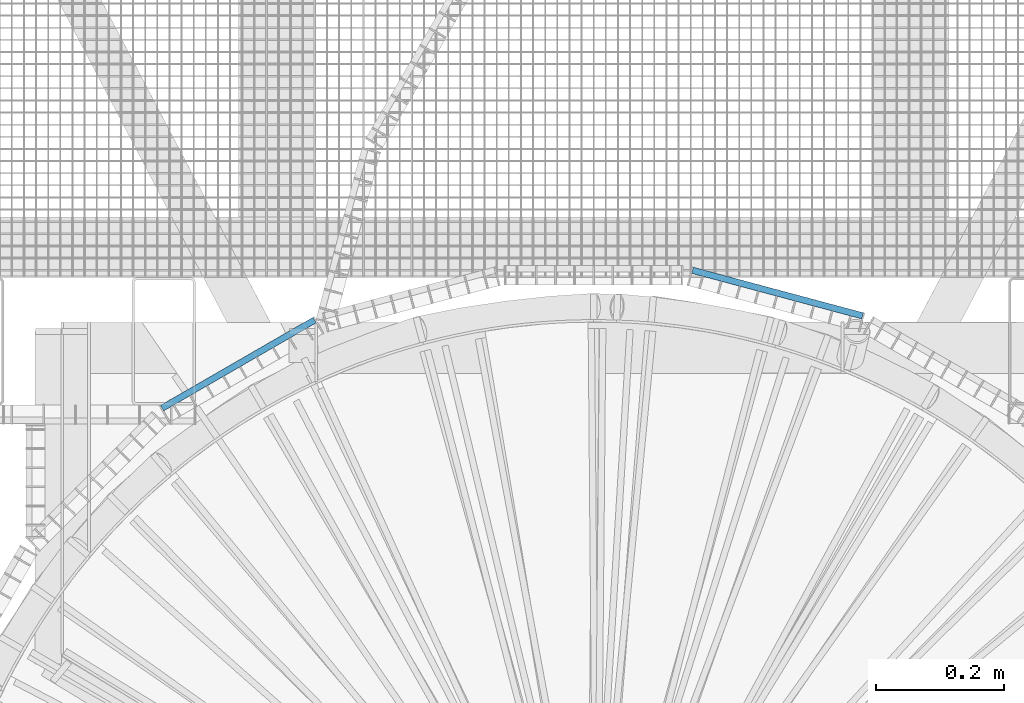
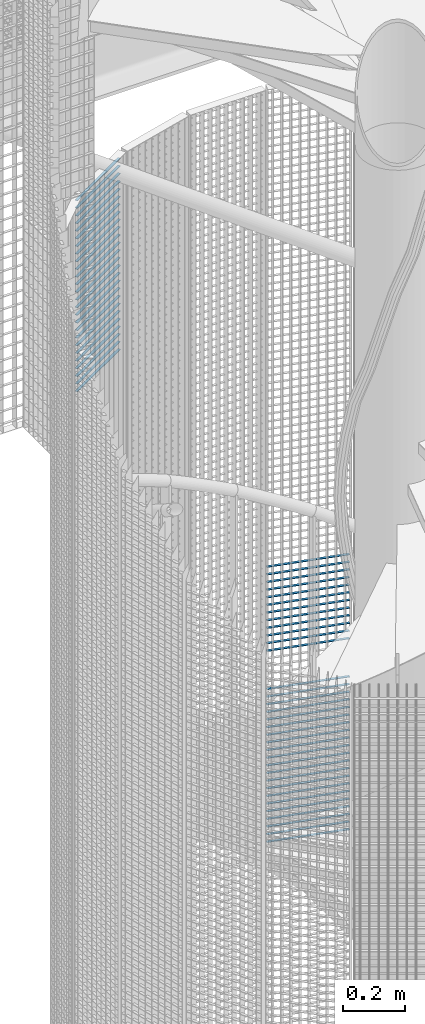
# One storey, part 321 of 1183: 59 beams, 2 elements without a shape of their own.
"""IFC2X3 building model written with IfcOpenShell, lengths in millimetres."""

import ifcopenshell
import ifcopenshell.guid

model = None  # the IFC model being written
_history = None  # IfcOwnerHistory: only IFC2X3 demands one
_inside = {}  # id of a spatial element -> (the spatial element, [elements in it])
_under = {}  # id of a project, library or spatial element -> (it, [spatial elements below it])
_declared = {}  # id of a project -> (the project, [libraries it declares])
_typed = {}  # id of a type object -> (the type object, [elements of that type])
_made_of = {}  # id of a material, layer set ... -> (it, [elements and type objects made of it])


def new_model(schema):
    """Start an empty IFC model of exactly this schema.

    Asked for "IFC4X3", IfcOpenShell would pick the latest addendum, in which some entities
    have other attributes; the version numbers below select the first issue.
    IFC2X3 requires an IfcOwnerHistory on every rooted entity: one is made here for all.
    """
    global model, _history
    if schema == "IFC4X3":
        model = ifcopenshell.file(schema_version=(4, 3, 0, 0))
    else:
        model = ifcopenshell.file(schema=schema)
    _inside.clear()
    _under.clear()
    _declared.clear()
    _typed.clear()
    _made_of.clear()
    _history = None
    if model.schema == "IFC2X3":
        org = make("IfcOrganization", Name="unknown")
        user = make(
            "IfcPersonAndOrganization",
            ThePerson=make("IfcPerson", FamilyName="unknown"),
            TheOrganization=org,
        )
        app = make(
            "IfcApplication",
            ApplicationDeveloper=org,
            Version="unknown",
            ApplicationFullName="unknown",
            ApplicationIdentifier="unknown",
        )
        _history = make(
            "IfcOwnerHistory",
            OwningUser=user,
            OwningApplication=app,
            ChangeAction="ADDED",
            CreationDate=0,
        )
    return model


def make(cls, **values):
    """One entity of the class cls with the attributes given. An attribute that is None is left unset."""
    return model.create_entity(
        cls, **{name: value for name, value in values.items() if value is not None}
    )


def rooted(cls, **values):
    """An entity with a GlobalId (a new one), such as an element, a storey or a relation."""
    return make(cls, GlobalId=ifcopenshell.guid.new(), OwnerHistory=_history, **values)


def si_unit(unit_type, name, prefix=None):
    """IfcSIUnit, for example si_unit("LENGTHUNIT", "METRE", prefix="MILLI")."""
    return make("IfcSIUnit", UnitType=unit_type, Prefix=prefix, Name=name)


def assignment(units):
    """IfcUnitAssignment: the units of a project."""
    return None if units is None else make("IfcUnitAssignment", Units=units)


def point(xyz):
    """IfcCartesianPoint."""
    return None if xyz is None else make("IfcCartesianPoint", Coordinates=xyz)


def direction(xyz):
    """IfcDirection."""
    return None if xyz is None else make("IfcDirection", DirectionRatios=xyz)


def frame(location, z_axis=None, x_axis=None):
    """IfcAxis2Placement3D, a coordinate frame: its origin and axes. An axis left out is left unset."""
    return make(
        "IfcAxis2Placement3D",
        Location=point(location),
        Axis=direction(z_axis),
        RefDirection=direction(x_axis),
    )


def frame_2d(location, x_axis=None):
    """IfcAxis2Placement2D, a coordinate frame in the plane: its origin and x axis."""
    return make(
        "IfcAxis2Placement2D", Location=point(location), RefDirection=direction(x_axis)
    )


def origin_with_axes():
    """The frame at (0, 0, 0) with the z axis (0, 0, 1) and the x axis (1, 0, 0) written out."""
    return frame((0.0, 0.0, 0.0), z_axis=(0.0, 0.0, 1.0), x_axis=(1.0, 0.0, 0.0))


def origin_2d_with_axis():
    """The frame at (0, 0) in the plane with the x axis (1, 0) written out."""
    return frame_2d((0.0, 0.0), x_axis=(1.0, 0.0))


def place(relative_to, where):
    """IfcLocalPlacement: puts the frame where relative to a parent placement (None: the world)."""
    return make(
        "IfcLocalPlacement", PlacementRelTo=relative_to, RelativePlacement=where
    )


def context(
    kind, dimensions, precision=None, world=None, true_north=None, identifier=None
):
    """IfcGeometricRepresentationContext, for example the 3D "Model" context."""
    return make(
        "IfcGeometricRepresentationContext",
        ContextIdentifier=identifier,
        ContextType=kind,
        CoordinateSpaceDimension=dimensions,
        Precision=precision,
        WorldCoordinateSystem=world,
        TrueNorth=true_north,
    )


def subcontext(parent, identifier, kind, view, scale=None):
    """IfcGeometricRepresentationSubContext, for example "Body" below "Model"."""
    return make(
        "IfcGeometricRepresentationSubContext",
        ContextIdentifier=identifier,
        ContextType=kind,
        ParentContext=parent,
        TargetScale=scale,
        TargetView=view,
    )


def project(units=None, contexts=None):
    """IfcProject with its units and contexts."""
    return rooted(
        "IfcProject",
        Name="project",
        RepresentationContexts=contexts,
        UnitsInContext=assignment(units),
    )


def spatial(cls, under=None, at=None, **own):
    """A site, building, storey or space (cls), placed at a placement, below another one or the project."""
    s = rooted(cls, ObjectPlacement=at, **own)
    if under is not None:
        _under.setdefault(under.id(), (under, []))[1].append(s)
    return s


def profile(cls, at=None, kind="AREA", **sizes):
    """A parametric profile (cls). Its sizes go by their IFC names, for example OverallWidth=200.0."""
    return make(cls, ProfileType=kind, Position=at, **sizes)


def rectangle(**sizes):
    """IfcRectangleProfileDef."""
    return profile("IfcRectangleProfileDef", **sizes)


def extrude(swept, where, along, depth):
    """IfcExtrudedAreaSolid: the profile swept, set in the frame where, extruded along a direction by depth."""
    return make(
        "IfcExtrudedAreaSolid",
        SweptArea=swept,
        Position=where,
        ExtrudedDirection=direction(along),
        Depth=depth,
    )


def shape(context_of_items, identifier, shape_type, items):
    """IfcShapeRepresentation: the items that make up one representation, for example the "Body"."""
    return make(
        "IfcShapeRepresentation",
        ContextOfItems=context_of_items,
        RepresentationIdentifier=identifier,
        RepresentationType=shape_type,
        Items=items,
    )


def material(Name=None, Category=None):
    """IfcMaterial."""
    return make("IfcMaterial", Name=Name, Category=Category)


def made_of(thing, what):
    """Note that an element or type object is made of a material, layer set ...; save() writes the relation."""
    if what is not None:
        _made_of.setdefault(what.id(), (what, []))[1].append(thing)
    return thing


def type_object(cls, material=None, **own):
    """A type object (cls), such as IfcWallType, which elements share."""
    return made_of(rooted(cls, **own), material)


def element(
    cls,
    number,
    at=None,
    inside=None,
    cuts=None,
    type_object=None,
    material=None,
    context=None,
    identifier="Body",
    shape_type=None,
    held_by="IfcProductDefinitionShape",
    body=None,
    shapes=None,
    **own,
):
    """One element of the class cls, such as IfcWall. Its Tag is "e" and its number.

    at: its placement. inside: the storey or other place that contains it. cuts: it is an
    opening in that element (IfcRelVoidsElement). A single representation is given by context,
    identifier, shape_type and body (its items); several are given by shapes. held_by: the class
    of the entity that holds the representations. save() writes the other relations.
    """
    e = rooted(cls, Tag="e%d" % number, ObjectPlacement=at, **own)
    if body is not None:
        shapes = [shape(context, identifier, shape_type, body)]
    if shapes is not None:
        e.Representation = make(held_by, Representations=shapes)
    if inside is not None:
        _inside.setdefault(inside.id(), (inside, []))[1].append(e)
    if cuts is not None:
        rooted(
            "IfcRelVoidsElement", RelatingBuildingElement=cuts, RelatedOpeningElement=e
        )
    if type_object is not None:
        _typed.setdefault(type_object.id(), (type_object, []))[1].append(e)
    return made_of(e, material)


def aggregate(whole, parts):
    """IfcRelAggregates: a whole, such as a stair, and the parts it consists of."""
    return rooted("IfcRelAggregates", RelatingObject=whole, RelatedObjects=parts)


def save(model, path):
    """Write the relations noted so far, then the file.

    IfcRelAggregates (storeys below a building ...), IfcRelContainedInSpatialStructure (elements
    in a storey), IfcRelDefinesByType, IfcRelAssociatesMaterial and IfcRelDeclares: one each for
    every whole, place, type object, material and project.
    """
    for whole, parts in _under.values():
        aggregate(whole, parts)
    for where, things in _inside.values():
        rooted(
            "IfcRelContainedInSpatialStructure",
            RelatedElements=things,
            RelatingStructure=where,
        )
    for kind, things in _typed.values():
        rooted("IfcRelDefinesByType", RelatedObjects=things, RelatingType=kind)
    for what, things in _made_of.values():
        rooted("IfcRelAssociatesMaterial", RelatedObjects=things, RelatingMaterial=what)
    for by, libraries in _declared.values():
        rooted("IfcRelDeclares", RelatingContext=by, RelatedDefinitions=libraries)
    model.write(path)


model = new_model("IFC2X3")

# Units and contexts
model_context = context("Model", 3, precision=1e-05, world=origin_with_axes())
body_context = subcontext(model_context, "Body", "Model", "MODEL_VIEW")
ifc_project = project(units=[si_unit("LENGTHUNIT", "METRE", prefix="MILLI"), si_unit("AREAUNIT", "SQUARE_METRE"), si_unit("VOLUMEUNIT", "CUBIC_METRE"), si_unit("MASSUNIT", "GRAM", prefix="KILO"), si_unit("TIMEUNIT", "SECOND"), si_unit("PLANEANGLEUNIT", "RADIAN"), si_unit("SOLIDANGLEUNIT", "STERADIAN"), si_unit("THERMODYNAMICTEMPERATUREUNIT", "DEGREE_CELSIUS"), si_unit("LUMINOUSINTENSITYUNIT", "LUMEN")], contexts=[model_context])

# Site, building, storey
site_placement = place(None, origin_with_axes())
site = spatial("IfcSite", under=ifc_project, at=site_placement, Name="Undefined", CompositionType="ELEMENT")
building_placement = place(site_placement, origin_with_axes())
building = spatial("IfcBuilding", under=site, at=building_placement, Name="Undefined", CompositionType="ELEMENT")
storey_placement = place(building_placement, origin_with_axes())
storey = spatial("IfcBuildingStorey", under=building, at=storey_placement, Name="Undefined", CompositionType="ELEMENT", Elevation=0.0)

# Assembly, beams
assembly_1_placement = place(storey_placement, origin_with_axes())
assembly_1 = element("IfcElementAssembly", 1, at=assembly_1_placement, inside=storey, Name="BORDURE", AssemblyPlace="NOTDEFINED", PredefinedType="NOTDEFINED")
ifc_material = material(Name="STEEL/S235JR")
beam_type = type_object("IfcBeamType", Name="PL2*10", PredefinedType="NOTDEFINED")
beam_1_placement = place(assembly_1_placement, frame((421.483733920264, 1039.82309522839, 3630.0), z_axis=(0.258819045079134, 0.965925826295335, 0.0), x_axis=(-0.965925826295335, 0.258819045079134, 0.0)))
beam_1 = element("IfcBeam", 2, at=beam_1_placement, type_object=beam_type, material=ifc_material, Name="ENTRETOISE", context=body_context, shape_type="SweptSolid", body=[
    extrude(rectangle(XDim=2.0, YDim=10.0, at=origin_2d_with_axis()), frame((275.999999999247, 9.09494701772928e-13, 1.53210777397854e-14), z_axis=(-1.0, 0.0, 0.0), x_axis=(0.0, -1.0, 0.0)), (0.0, 0.0, 1.0), 276.0),
])
beam_2_placement = place(assembly_1_placement, frame((421.483733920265, 1039.82309522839, 3780.0), z_axis=(0.258819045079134, 0.965925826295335, 0.0), x_axis=(-0.965925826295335, 0.258819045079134, 0.0)))
beam_2 = element("IfcBeam", 3, at=beam_2_placement, type_object=beam_type, material=ifc_material, Name="ENTRETOISE", context=body_context, shape_type="SweptSolid", body=[
    extrude(rectangle(XDim=2.0, YDim=10.0, at=origin_2d_with_axis()), frame((275.999999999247, 9.09494701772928e-13, 1.53210777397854e-14), z_axis=(-1.0, 0.0, 0.0), x_axis=(0.0, -1.0, 0.0)), (0.0, 0.0, 1.0), 276.0),
])
beam_3_placement = place(assembly_1_placement, frame((421.483733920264, 1039.82309522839, 3600.0), z_axis=(0.258819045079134, 0.965925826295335, 0.0), x_axis=(-0.965925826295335, 0.258819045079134, 0.0)))
beam_3 = element("IfcBeam", 4, at=beam_3_placement, type_object=beam_type, material=ifc_material, Name="ENTRETOISE", context=body_context, shape_type="SweptSolid", body=[
    extrude(rectangle(XDim=2.0, YDim=10.0, at=origin_2d_with_axis()), frame((275.999999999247, 9.09494701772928e-13, 1.53210777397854e-14), z_axis=(-1.0, 0.0, 0.0), x_axis=(0.0, -1.0, 0.0)), (0.0, 0.0, 1.0), 276.0),
])
beam_4_placement = place(assembly_1_placement, frame((421.483733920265, 1039.82309522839, 3810.0), z_axis=(0.258819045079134, 0.965925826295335, 0.0), x_axis=(-0.965925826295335, 0.258819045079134, 0.0)))
beam_4 = element("IfcBeam", 5, at=beam_4_placement, type_object=beam_type, material=ifc_material, Name="ENTRETOISE", context=body_context, shape_type="SweptSolid", body=[
    extrude(rectangle(XDim=2.0, YDim=10.0, at=origin_2d_with_axis()), frame((275.999999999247, 9.09494701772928e-13, 1.53210777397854e-14), z_axis=(-1.0, 0.0, 0.0), x_axis=(0.0, -1.0, 0.0)), (0.0, 0.0, 1.0), 276.0),
])
beam_5_placement = place(assembly_1_placement, frame((421.483733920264, 1039.82309522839, 3570.0), z_axis=(0.258819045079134, 0.965925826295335, 0.0), x_axis=(-0.965925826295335, 0.258819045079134, 0.0)))
beam_5 = element("IfcBeam", 6, at=beam_5_placement, type_object=beam_type, material=ifc_material, Name="ENTRETOISE", context=body_context, shape_type="SweptSolid", body=[
    extrude(rectangle(XDim=2.0, YDim=10.0, at=origin_2d_with_axis()), frame((275.999999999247, 9.09494701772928e-13, 1.53210777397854e-14), z_axis=(-1.0, 0.0, 0.0), x_axis=(0.0, -1.0, 0.0)), (0.0, 0.0, 1.0), 276.0),
])
beam_6_placement = place(assembly_1_placement, frame((421.483733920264, 1039.82309522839, 3540.0), z_axis=(0.258819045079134, 0.965925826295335, 0.0), x_axis=(-0.965925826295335, 0.258819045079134, 0.0)))
beam_6 = element("IfcBeam", 7, at=beam_6_placement, type_object=beam_type, material=ifc_material, Name="ENTRETOISE", context=body_context, shape_type="SweptSolid", body=[
    extrude(rectangle(XDim=2.0, YDim=10.0, at=origin_2d_with_axis()), frame((275.999999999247, 9.09494701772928e-13, 1.53210777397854e-14), z_axis=(-1.0, 0.0, 0.0), x_axis=(0.0, -1.0, 0.0)), (0.0, 0.0, 1.0), 276.0),
])
beam_7_placement = place(assembly_1_placement, frame((421.483733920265, 1039.82309522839, 3840.0), z_axis=(0.258819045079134, 0.965925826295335, 0.0), x_axis=(-0.965925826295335, 0.258819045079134, 0.0)))
beam_7 = element("IfcBeam", 8, at=beam_7_placement, type_object=beam_type, material=ifc_material, Name="ENTRETOISE", context=body_context, shape_type="SweptSolid", body=[
    extrude(rectangle(XDim=2.0, YDim=10.0, at=origin_2d_with_axis()), frame((275.999999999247, 9.09494701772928e-13, 1.53210777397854e-14), z_axis=(-1.0, 0.0, 0.0), x_axis=(0.0, -1.0, 0.0)), (0.0, 0.0, 1.0), 276.0),
])
beam_8_placement = place(assembly_1_placement, frame((421.483733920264, 1039.82309522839, 3510.0), z_axis=(0.258819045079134, 0.965925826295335, 0.0), x_axis=(-0.965925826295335, 0.258819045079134, 0.0)))
beam_8 = element("IfcBeam", 9, at=beam_8_placement, type_object=beam_type, material=ifc_material, Name="ENTRETOISE", context=body_context, shape_type="SweptSolid", body=[
    extrude(rectangle(XDim=2.0, YDim=10.0, at=origin_2d_with_axis()), frame((275.999999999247, 9.09494701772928e-13, 1.53210777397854e-14), z_axis=(-1.0, 0.0, 0.0), x_axis=(0.0, -1.0, 0.0)), (0.0, 0.0, 1.0), 276.0),
])
beam_9_placement = place(assembly_1_placement, frame((421.483733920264, 1039.82309522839, 3480.0), z_axis=(0.258819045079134, 0.965925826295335, 0.0), x_axis=(-0.965925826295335, 0.258819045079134, 0.0)))
beam_9 = element("IfcBeam", 10, at=beam_9_placement, type_object=beam_type, material=ifc_material, Name="ENTRETOISE", context=body_context, shape_type="SweptSolid", body=[
    extrude(rectangle(XDim=2.0, YDim=10.0, at=origin_2d_with_axis()), frame((275.999999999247, 9.09494701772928e-13, 1.53210777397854e-14), z_axis=(-1.0, 0.0, 0.0), x_axis=(0.0, -1.0, 0.0)), (0.0, 0.0, 1.0), 276.0),
])
beam_10_placement = place(assembly_1_placement, frame((421.483733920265, 1039.82309522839, 3870.0), z_axis=(0.258819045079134, 0.965925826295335, 0.0), x_axis=(-0.965925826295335, 0.258819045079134, 0.0)))
beam_10 = element("IfcBeam", 11, at=beam_10_placement, type_object=beam_type, material=ifc_material, Name="ENTRETOISE", context=body_context, shape_type="SweptSolid", body=[
    extrude(rectangle(XDim=2.0, YDim=10.0, at=origin_2d_with_axis()), frame((275.999999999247, 9.09494701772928e-13, 1.53210777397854e-14), z_axis=(-1.0, 0.0, 0.0), x_axis=(0.0, -1.0, 0.0)), (0.0, 0.0, 1.0), 276.0),
])
beam_11_placement = place(assembly_1_placement, frame((421.483733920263, 1039.82309522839, 3450.0), z_axis=(0.258819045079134, 0.965925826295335, 0.0), x_axis=(-0.965925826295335, 0.258819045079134, 0.0)))
beam_11 = element("IfcBeam", 12, at=beam_11_placement, type_object=beam_type, material=ifc_material, Name="ENTRETOISE", context=body_context, shape_type="SweptSolid", body=[
    extrude(rectangle(XDim=2.0, YDim=10.0, at=origin_2d_with_axis()), frame((275.999999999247, 9.09494701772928e-13, 1.53210777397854e-14), z_axis=(-1.0, 0.0, 0.0), x_axis=(0.0, -1.0, 0.0)), (0.0, 0.0, 1.0), 276.0),
])
beam_12_placement = place(assembly_1_placement, frame((421.483733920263, 1039.82309522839, 3420.0), z_axis=(0.258819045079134, 0.965925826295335, 0.0), x_axis=(-0.965925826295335, 0.258819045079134, 0.0)))
beam_12 = element("IfcBeam", 13, at=beam_12_placement, type_object=beam_type, material=ifc_material, Name="ENTRETOISE", context=body_context, shape_type="SweptSolid", body=[
    extrude(rectangle(XDim=2.0, YDim=10.0, at=origin_2d_with_axis()), frame((275.999999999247, 9.09494701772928e-13, 1.53210777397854e-14), z_axis=(-1.0, 0.0, 0.0), x_axis=(0.0, -1.0, 0.0)), (0.0, 0.0, 1.0), 276.0),
])
beam_13_placement = place(assembly_1_placement, frame((421.483733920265, 1039.82309522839, 3900.0), z_axis=(0.258819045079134, 0.965925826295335, 0.0), x_axis=(-0.965925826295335, 0.258819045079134, 0.0)))
beam_13 = element("IfcBeam", 14, at=beam_13_placement, type_object=beam_type, material=ifc_material, Name="ENTRETOISE", context=body_context, shape_type="SweptSolid", body=[
    extrude(rectangle(XDim=2.0, YDim=10.0, at=origin_2d_with_axis()), frame((275.999999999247, 9.09494701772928e-13, 1.53210777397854e-14), z_axis=(-1.0, 0.0, 0.0), x_axis=(0.0, -1.0, 0.0)), (0.0, 0.0, 1.0), 276.0),
])
beam_14_placement = place(assembly_1_placement, frame((421.483733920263, 1039.82309522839, 3390.0), z_axis=(0.258819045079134, 0.965925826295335, 0.0), x_axis=(-0.965925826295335, 0.258819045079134, 0.0)))
beam_14 = element("IfcBeam", 15, at=beam_14_placement, type_object=beam_type, material=ifc_material, Name="ENTRETOISE", context=body_context, shape_type="SweptSolid", body=[
    extrude(rectangle(XDim=2.0, YDim=10.0, at=origin_2d_with_axis()), frame((275.999999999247, 9.09494701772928e-13, 1.53210777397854e-14), z_axis=(-1.0, 0.0, 0.0), x_axis=(0.0, -1.0, 0.0)), (0.0, 0.0, 1.0), 276.0),
])
beam_15_placement = place(assembly_1_placement, frame((421.483733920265, 1039.82309522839, 3930.0), z_axis=(0.258819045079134, 0.965925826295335, 0.0), x_axis=(-0.965925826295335, 0.258819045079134, 0.0)))
beam_15 = element("IfcBeam", 16, at=beam_15_placement, type_object=beam_type, material=ifc_material, Name="ENTRETOISE", context=body_context, shape_type="SweptSolid", body=[
    extrude(rectangle(XDim=2.0, YDim=10.0, at=origin_2d_with_axis()), frame((275.999999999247, 9.09494701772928e-13, 1.53210777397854e-14), z_axis=(-1.0, 0.0, 0.0), x_axis=(0.0, -1.0, 0.0)), (0.0, 0.0, 1.0), 276.0),
])
beam_16_placement = place(assembly_1_placement, frame((421.483733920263, 1039.82309522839, 3360.0), z_axis=(0.258819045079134, 0.965925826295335, 0.0), x_axis=(-0.965925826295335, 0.258819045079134, 0.0)))
beam_16 = element("IfcBeam", 17, at=beam_16_placement, type_object=beam_type, material=ifc_material, Name="ENTRETOISE", context=body_context, shape_type="SweptSolid", body=[
    extrude(rectangle(XDim=2.0, YDim=10.0, at=origin_2d_with_axis()), frame((275.999999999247, 9.09494701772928e-13, 1.53210777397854e-14), z_axis=(-1.0, 0.0, 0.0), x_axis=(0.0, -1.0, 0.0)), (0.0, 0.0, 1.0), 276.0),
])
beam_17_placement = place(assembly_1_placement, frame((421.483733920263, 1039.82309522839, 3330.0), z_axis=(0.258819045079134, 0.965925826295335, 0.0), x_axis=(-0.965925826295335, 0.258819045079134, 0.0)))
beam_17 = element("IfcBeam", 18, at=beam_17_placement, type_object=beam_type, material=ifc_material, Name="ENTRETOISE", context=body_context, shape_type="SweptSolid", body=[
    extrude(rectangle(XDim=2.0, YDim=10.0, at=origin_2d_with_axis()), frame((275.999999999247, 9.09494701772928e-13, 1.53210777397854e-14), z_axis=(-1.0, 0.0, 0.0), x_axis=(0.0, -1.0, 0.0)), (0.0, 0.0, 1.0), 276.0),
])
beam_18_placement = place(assembly_1_placement, frame((421.483733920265, 1039.82309522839, 3960.0), z_axis=(0.258819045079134, 0.965925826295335, 0.0), x_axis=(-0.965925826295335, 0.258819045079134, 0.0)))
beam_18 = element("IfcBeam", 19, at=beam_18_placement, type_object=beam_type, material=ifc_material, Name="ENTRETOISE", context=body_context, shape_type="SweptSolid", body=[
    extrude(rectangle(XDim=2.0, YDim=10.0, at=origin_2d_with_axis()), frame((275.999999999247, 9.09494701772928e-13, 1.53210777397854e-14), z_axis=(-1.0, 0.0, 0.0), x_axis=(0.0, -1.0, 0.0)), (0.0, 0.0, 1.0), 276.0),
])
beam_19_placement = place(assembly_1_placement, frame((421.483733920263, 1039.82309522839, 3300.0), z_axis=(0.258819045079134, 0.965925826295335, 0.0), x_axis=(-0.965925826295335, 0.258819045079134, 0.0)))
beam_19 = element("IfcBeam", 20, at=beam_19_placement, type_object=beam_type, material=ifc_material, Name="ENTRETOISE", context=body_context, shape_type="SweptSolid", body=[
    extrude(rectangle(XDim=2.0, YDim=10.0, at=origin_2d_with_axis()), frame((275.999999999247, 9.09494701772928e-13, 1.53210777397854e-14), z_axis=(-1.0, 0.0, 0.0), x_axis=(0.0, -1.0, 0.0)), (0.0, 0.0, 1.0), 276.0),
])
beam_20_placement = place(assembly_1_placement, frame((421.483733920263, 1039.82309522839, 3270.0), z_axis=(0.258819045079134, 0.965925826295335, 0.0), x_axis=(-0.965925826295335, 0.258819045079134, 0.0)))
beam_20 = element("IfcBeam", 21, at=beam_20_placement, type_object=beam_type, material=ifc_material, Name="ENTRETOISE", context=body_context, shape_type="SweptSolid", body=[
    extrude(rectangle(XDim=2.0, YDim=10.0, at=origin_2d_with_axis()), frame((275.999999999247, 9.09494701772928e-13, 1.53210777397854e-14), z_axis=(-1.0, 0.0, 0.0), x_axis=(0.0, -1.0, 0.0)), (0.0, 0.0, 1.0), 276.0),
])
beam_21_placement = place(assembly_1_placement, frame((421.483733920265, 1039.82309522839, 3990.0), z_axis=(0.258819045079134, 0.965925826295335, 0.0), x_axis=(-0.965925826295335, 0.258819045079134, 0.0)))
beam_21 = element("IfcBeam", 22, at=beam_21_placement, type_object=beam_type, material=ifc_material, Name="ENTRETOISE", context=body_context, shape_type="SweptSolid", body=[
    extrude(rectangle(XDim=2.0, YDim=10.0, at=origin_2d_with_axis()), frame((275.999999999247, 9.09494701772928e-13, 1.53210777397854e-14), z_axis=(-1.0, 0.0, 0.0), x_axis=(0.0, -1.0, 0.0)), (0.0, 0.0, 1.0), 276.0),
])
beam_22_placement = place(assembly_1_placement, frame((421.483733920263, 1039.82309522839, 3240.0), z_axis=(0.258819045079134, 0.965925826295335, 0.0), x_axis=(-0.965925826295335, 0.258819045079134, 0.0)))
beam_22 = element("IfcBeam", 23, at=beam_22_placement, type_object=beam_type, material=ifc_material, Name="ENTRETOISE", context=body_context, shape_type="SweptSolid", body=[
    extrude(rectangle(XDim=2.0, YDim=10.0, at=origin_2d_with_axis()), frame((275.999999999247, 9.09494701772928e-13, 1.53210777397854e-14), z_axis=(-1.0, 0.0, 0.0), x_axis=(0.0, -1.0, 0.0)), (0.0, 0.0, 1.0), 276.0),
])
beam_23_placement = place(assembly_1_placement, frame((421.483733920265, 1039.82309522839, 4020.0), z_axis=(0.258819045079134, 0.965925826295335, 0.0), x_axis=(-0.965925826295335, 0.258819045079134, 0.0)))
beam_23 = element("IfcBeam", 24, at=beam_23_placement, type_object=beam_type, material=ifc_material, Name="ENTRETOISE", context=body_context, shape_type="SweptSolid", body=[
    extrude(rectangle(XDim=2.0, YDim=10.0, at=origin_2d_with_axis()), frame((275.999999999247, 9.09494701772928e-13, 1.53210777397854e-14), z_axis=(-1.0, 0.0, 0.0), x_axis=(0.0, -1.0, 0.0)), (0.0, 0.0, 1.0), 276.0),
])
beam_24_placement = place(assembly_1_placement, frame((421.483733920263, 1039.82309522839, 3210.0), z_axis=(0.258819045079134, 0.965925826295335, 0.0), x_axis=(-0.965925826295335, 0.258819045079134, 0.0)))
beam_24 = element("IfcBeam", 25, at=beam_24_placement, type_object=beam_type, material=ifc_material, Name="ENTRETOISE", context=body_context, shape_type="SweptSolid", body=[
    extrude(rectangle(XDim=2.0, YDim=10.0, at=origin_2d_with_axis()), frame((275.999999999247, 9.09494701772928e-13, 1.53210777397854e-14), z_axis=(-1.0, 0.0, 0.0), x_axis=(0.0, -1.0, 0.0)), (0.0, 0.0, 1.0), 276.0),
])
beam_25_placement = place(assembly_1_placement, frame((421.483733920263, 1039.82309522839, 3180.0), z_axis=(0.258819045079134, 0.965925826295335, 0.0), x_axis=(-0.965925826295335, 0.258819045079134, 0.0)))
beam_25 = element("IfcBeam", 26, at=beam_25_placement, type_object=beam_type, material=ifc_material, Name="ENTRETOISE", context=body_context, shape_type="SweptSolid", body=[
    extrude(rectangle(XDim=2.0, YDim=10.0, at=origin_2d_with_axis()), frame((275.999999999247, 9.09494701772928e-13, 1.53210777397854e-14), z_axis=(-1.0, 0.0, 0.0), x_axis=(0.0, -1.0, 0.0)), (0.0, 0.0, 1.0), 276.0),
])
beam_26_placement = place(assembly_1_placement, frame((421.483733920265, 1039.82309522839, 4050.0), z_axis=(0.258819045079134, 0.965925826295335, 0.0), x_axis=(-0.965925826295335, 0.258819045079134, 0.0)))
beam_26 = element("IfcBeam", 27, at=beam_26_placement, type_object=beam_type, material=ifc_material, Name="ENTRETOISE", context=body_context, shape_type="SweptSolid", body=[
    extrude(rectangle(XDim=2.0, YDim=10.0, at=origin_2d_with_axis()), frame((275.999999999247, 9.09494701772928e-13, 1.53210777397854e-14), z_axis=(-1.0, 0.0, 0.0), x_axis=(0.0, -1.0, 0.0)), (0.0, 0.0, 1.0), 276.0),
])
beam_27_placement = place(assembly_1_placement, frame((421.483733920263, 1039.82309522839, 3150.0), z_axis=(0.258819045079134, 0.965925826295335, 0.0), x_axis=(-0.965925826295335, 0.258819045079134, 0.0)))
beam_27 = element("IfcBeam", 28, at=beam_27_placement, type_object=beam_type, material=ifc_material, Name="ENTRETOISE", context=body_context, shape_type="SweptSolid", body=[
    extrude(rectangle(XDim=2.0, YDim=10.0, at=origin_2d_with_axis()), frame((275.999999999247, 9.09494701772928e-13, 1.53210777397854e-14), z_axis=(-1.0, 0.0, 0.0), x_axis=(0.0, -1.0, 0.0)), (0.0, 0.0, 1.0), 276.0),
])
beam_28_placement = place(assembly_1_placement, frame((421.483733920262, 1039.82309522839, 3120.0), z_axis=(0.258819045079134, 0.965925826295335, 0.0), x_axis=(-0.965925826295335, 0.258819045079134, 0.0)))
beam_28 = element("IfcBeam", 29, at=beam_28_placement, type_object=beam_type, material=ifc_material, Name="ENTRETOISE", context=body_context, shape_type="SweptSolid", body=[
    extrude(rectangle(XDim=2.0, YDim=10.0, at=origin_2d_with_axis()), frame((275.999999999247, 9.09494701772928e-13, 1.53210777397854e-14), z_axis=(-1.0, 0.0, 0.0), x_axis=(0.0, -1.0, 0.0)), (0.0, 0.0, 1.0), 276.0),
])
beam_29_placement = place(assembly_1_placement, frame((421.483733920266, 1039.82309522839, 4080.0), z_axis=(0.258819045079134, 0.965925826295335, 0.0), x_axis=(-0.965925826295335, 0.258819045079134, 0.0)))
beam_29 = element("IfcBeam", 30, at=beam_29_placement, type_object=beam_type, material=ifc_material, Name="ENTRETOISE", context=body_context, shape_type="SweptSolid", body=[
    extrude(rectangle(XDim=2.0, YDim=10.0, at=origin_2d_with_axis()), frame((275.999999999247, 9.09494701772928e-13, 1.53210777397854e-14), z_axis=(-1.0, 0.0, 0.0), x_axis=(0.0, -1.0, 0.0)), (0.0, 0.0, 1.0), 276.0),
])
beam_30_placement = place(assembly_1_placement, frame((421.483733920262, 1039.82309522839, 3090.0), z_axis=(0.258819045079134, 0.965925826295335, 0.0), x_axis=(-0.965925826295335, 0.258819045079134, 0.0)))
beam_30 = element("IfcBeam", 31, at=beam_30_placement, type_object=beam_type, material=ifc_material, Name="ENTRETOISE", context=body_context, shape_type="SweptSolid", body=[
    extrude(rectangle(XDim=2.0, YDim=10.0, at=origin_2d_with_axis()), frame((275.999999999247, 9.09494701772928e-13, 1.53210777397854e-14), z_axis=(-1.0, 0.0, 0.0), x_axis=(0.0, -1.0, 0.0)), (0.0, 0.0, 1.0), 276.0),
])
beam_31_placement = place(assembly_1_placement, frame((421.483733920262, 1039.82309522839, 3060.0), z_axis=(0.258819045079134, 0.965925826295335, 0.0), x_axis=(-0.965925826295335, 0.258819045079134, 0.0)))
beam_31 = element("IfcBeam", 32, at=beam_31_placement, type_object=beam_type, material=ifc_material, Name="ENTRETOISE", context=body_context, shape_type="SweptSolid", body=[
    extrude(rectangle(XDim=2.0, YDim=10.0, at=origin_2d_with_axis()), frame((275.999999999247, 9.09494701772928e-13, 1.53210777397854e-14), z_axis=(-1.0, 0.0, 0.0), x_axis=(0.0, -1.0, 0.0)), (0.0, 0.0, 1.0), 276.0),
])
beam_32_placement = place(assembly_1_placement, frame((421.483733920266, 1039.82309522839, 4110.0), z_axis=(0.258819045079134, 0.965925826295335, 0.0), x_axis=(-0.965925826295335, 0.258819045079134, 0.0)))
beam_32 = element("IfcBeam", 33, at=beam_32_placement, type_object=beam_type, material=ifc_material, Name="ENTRETOISE", context=body_context, shape_type="SweptSolid", body=[
    extrude(rectangle(XDim=2.0, YDim=10.0, at=origin_2d_with_axis()), frame((275.999999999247, 9.09494701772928e-13, 1.53210777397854e-14), z_axis=(-1.0, 0.0, 0.0), x_axis=(0.0, -1.0, 0.0)), (0.0, 0.0, 1.0), 276.0),
])
beam_33_placement = place(assembly_1_placement, frame((421.483733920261, 1039.82309522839, 3030.0), z_axis=(0.258819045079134, 0.965925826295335, 0.0), x_axis=(-0.965925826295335, 0.258819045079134, 0.0)))
beam_33 = element("IfcBeam", 34, at=beam_33_placement, type_object=beam_type, material=ifc_material, Name="ENTRETOISE", context=body_context, shape_type="SweptSolid", body=[
    extrude(rectangle(XDim=2.0, YDim=10.0, at=origin_2d_with_axis()), frame((275.999999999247, 9.09494701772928e-13, 1.53210777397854e-14), z_axis=(-1.0, 0.0, 0.0), x_axis=(0.0, -1.0, 0.0)), (0.0, 0.0, 1.0), 276.0),
])
aggregate(assembly_1, [beam_1, beam_2, beam_3, beam_4, beam_5, beam_6, beam_7, beam_8, beam_9, beam_10, beam_11, beam_12, beam_13, beam_14, beam_15, beam_16, beam_17, beam_18, beam_19, beam_20, beam_21, beam_22, beam_23, beam_24, beam_25, beam_26, beam_27, beam_28, beam_29, beam_30, beam_31, beam_32, beam_33])

assembly_2_placement = place(storey_placement, origin_with_axes())
assembly_2 = element("IfcElementAssembly", 35, at=assembly_2_placement, inside=storey, Name="BORDURE", AssemblyPlace="NOTDEFINED", PredefinedType="NOTDEFINED")
beam_34_placement = place(assembly_2_placement, frame((-437.231955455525, 1033.29996828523, 5970.0), z_axis=(-0.49999999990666, 0.866025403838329, 0.0), x_axis=(-0.866025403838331, -0.499999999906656, 0.0)))
beam_34 = element("IfcBeam", 36, at=beam_34_placement, type_object=beam_type, material=ifc_material, Name="ENTRETOISE", context=body_context, shape_type="SweptSolid", body=[
    extrude(rectangle(XDim=2.0, YDim=10.0, at=origin_2d_with_axis()), frame((275.999999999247, 9.09494701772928e-13, 1.53210777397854e-14), z_axis=(-1.0, 0.0, 0.0), x_axis=(0.0, -1.0, 0.0)), (0.0, 0.0, 1.0), 276.0),
])
beam_35_placement = place(assembly_2_placement, frame((-437.231955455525, 1033.29996828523, 5940.0), z_axis=(-0.49999999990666, 0.866025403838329, 0.0), x_axis=(-0.866025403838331, -0.499999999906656, 0.0)))
beam_35 = element("IfcBeam", 37, at=beam_35_placement, type_object=beam_type, material=ifc_material, Name="ENTRETOISE", context=body_context, shape_type="SweptSolid", body=[
    extrude(rectangle(XDim=2.0, YDim=10.0, at=origin_2d_with_axis()), frame((275.999999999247, 9.09494701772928e-13, 1.53210777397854e-14), z_axis=(-1.0, 0.0, 0.0), x_axis=(0.0, -1.0, 0.0)), (0.0, 0.0, 1.0), 276.0),
])
beam_36_placement = place(assembly_2_placement, frame((-437.231955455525, 1033.29996828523, 5910.0), z_axis=(-0.49999999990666, 0.866025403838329, 0.0), x_axis=(-0.866025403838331, -0.499999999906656, 0.0)))
beam_36 = element("IfcBeam", 38, at=beam_36_placement, type_object=beam_type, material=ifc_material, Name="ENTRETOISE", context=body_context, shape_type="SweptSolid", body=[
    extrude(rectangle(XDim=2.0, YDim=10.0, at=origin_2d_with_axis()), frame((275.999999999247, 9.09494701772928e-13, 1.53210777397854e-14), z_axis=(-1.0, 0.0, 0.0), x_axis=(0.0, -1.0, 0.0)), (0.0, 0.0, 1.0), 276.0),
])
beam_37_placement = place(assembly_2_placement, frame((-437.231955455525, 1033.29996828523, 5880.0), z_axis=(-0.49999999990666, 0.866025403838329, 0.0), x_axis=(-0.866025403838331, -0.499999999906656, 0.0)))
beam_37 = element("IfcBeam", 39, at=beam_37_placement, type_object=beam_type, material=ifc_material, Name="ENTRETOISE", context=body_context, shape_type="SweptSolid", body=[
    extrude(rectangle(XDim=2.0, YDim=10.0, at=origin_2d_with_axis()), frame((275.999999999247, 9.09494701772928e-13, 1.53210777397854e-14), z_axis=(-1.0, 0.0, 0.0), x_axis=(0.0, -1.0, 0.0)), (0.0, 0.0, 1.0), 276.0),
])
beam_38_placement = place(assembly_2_placement, frame((-437.231955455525, 1033.29996828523, 5850.0), z_axis=(-0.49999999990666, 0.866025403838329, 0.0), x_axis=(-0.866025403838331, -0.499999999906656, 0.0)))
beam_38 = element("IfcBeam", 40, at=beam_38_placement, type_object=beam_type, material=ifc_material, Name="ENTRETOISE", context=body_context, shape_type="SweptSolid", body=[
    extrude(rectangle(XDim=2.0, YDim=10.0, at=origin_2d_with_axis()), frame((275.999999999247, 9.09494701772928e-13, 1.53210777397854e-14), z_axis=(-1.0, 0.0, 0.0), x_axis=(0.0, -1.0, 0.0)), (0.0, 0.0, 1.0), 276.0),
])
beam_39_placement = place(assembly_2_placement, frame((-437.231955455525, 1033.29996828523, 5820.0), z_axis=(-0.49999999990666, 0.866025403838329, 0.0), x_axis=(-0.866025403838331, -0.499999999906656, 0.0)))
beam_39 = element("IfcBeam", 41, at=beam_39_placement, type_object=beam_type, material=ifc_material, Name="ENTRETOISE", context=body_context, shape_type="SweptSolid", body=[
    extrude(rectangle(XDim=2.0, YDim=10.0, at=origin_2d_with_axis()), frame((275.999999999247, 9.09494701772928e-13, 1.53210777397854e-14), z_axis=(-1.0, 0.0, 0.0), x_axis=(0.0, -1.0, 0.0)), (0.0, 0.0, 1.0), 276.0),
])
beam_40_placement = place(assembly_2_placement, frame((-437.231955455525, 1033.29996828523, 5790.0), z_axis=(-0.49999999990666, 0.866025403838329, 0.0), x_axis=(-0.866025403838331, -0.499999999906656, 0.0)))
beam_40 = element("IfcBeam", 42, at=beam_40_placement, type_object=beam_type, material=ifc_material, Name="ENTRETOISE", context=body_context, shape_type="SweptSolid", body=[
    extrude(rectangle(XDim=2.0, YDim=10.0, at=origin_2d_with_axis()), frame((275.999999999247, 9.09494701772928e-13, 1.53210777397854e-14), z_axis=(-1.0, 0.0, 0.0), x_axis=(0.0, -1.0, 0.0)), (0.0, 0.0, 1.0), 276.0),
])
beam_41_placement = place(assembly_2_placement, frame((-437.231955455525, 1033.29996828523, 5760.0), z_axis=(-0.49999999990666, 0.866025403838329, 0.0), x_axis=(-0.866025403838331, -0.499999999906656, 0.0)))
beam_41 = element("IfcBeam", 43, at=beam_41_placement, type_object=beam_type, material=ifc_material, Name="ENTRETOISE", context=body_context, shape_type="SweptSolid", body=[
    extrude(rectangle(XDim=2.0, YDim=10.0, at=origin_2d_with_axis()), frame((275.999999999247, 9.09494701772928e-13, 1.53210777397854e-14), z_axis=(-1.0, 0.0, 0.0), x_axis=(0.0, -1.0, 0.0)), (0.0, 0.0, 1.0), 276.0),
])
beam_42_placement = place(assembly_2_placement, frame((-437.231955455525, 1033.29996828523, 5730.0), z_axis=(-0.49999999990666, 0.866025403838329, 0.0), x_axis=(-0.866025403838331, -0.499999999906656, 0.0)))
beam_42 = element("IfcBeam", 44, at=beam_42_placement, type_object=beam_type, material=ifc_material, Name="ENTRETOISE", context=body_context, shape_type="SweptSolid", body=[
    extrude(rectangle(XDim=2.0, YDim=10.0, at=origin_2d_with_axis()), frame((275.999999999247, 9.09494701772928e-13, 1.53210777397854e-14), z_axis=(-1.0, 0.0, 0.0), x_axis=(0.0, -1.0, 0.0)), (0.0, 0.0, 1.0), 276.0),
])
beam_43_placement = place(assembly_2_placement, frame((-437.231955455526, 1033.29996828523, 5700.0), z_axis=(-0.49999999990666, 0.866025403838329, 0.0), x_axis=(-0.866025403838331, -0.499999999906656, 0.0)))
beam_43 = element("IfcBeam", 45, at=beam_43_placement, type_object=beam_type, material=ifc_material, Name="ENTRETOISE", context=body_context, shape_type="SweptSolid", body=[
    extrude(rectangle(XDim=2.0, YDim=10.0, at=origin_2d_with_axis()), frame((275.999999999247, 9.09494701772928e-13, 1.53210777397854e-14), z_axis=(-1.0, 0.0, 0.0), x_axis=(0.0, -1.0, 0.0)), (0.0, 0.0, 1.0), 276.0),
])
beam_44_placement = place(assembly_2_placement, frame((-437.231955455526, 1033.29996828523, 5670.0), z_axis=(-0.49999999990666, 0.866025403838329, 0.0), x_axis=(-0.866025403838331, -0.499999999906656, 0.0)))
beam_44 = element("IfcBeam", 46, at=beam_44_placement, type_object=beam_type, material=ifc_material, Name="ENTRETOISE", context=body_context, shape_type="SweptSolid", body=[
    extrude(rectangle(XDim=2.0, YDim=10.0, at=origin_2d_with_axis()), frame((275.999999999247, 9.09494701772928e-13, 1.53210777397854e-14), z_axis=(-1.0, 0.0, 0.0), x_axis=(0.0, -1.0, 0.0)), (0.0, 0.0, 1.0), 276.0),
])
beam_45_placement = place(assembly_2_placement, frame((-437.231955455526, 1033.29996828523, 5640.0), z_axis=(-0.49999999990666, 0.866025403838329, 0.0), x_axis=(-0.866025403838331, -0.499999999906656, 0.0)))
beam_45 = element("IfcBeam", 47, at=beam_45_placement, type_object=beam_type, material=ifc_material, Name="ENTRETOISE", context=body_context, shape_type="SweptSolid", body=[
    extrude(rectangle(XDim=2.0, YDim=10.0, at=origin_2d_with_axis()), frame((275.999999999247, 9.09494701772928e-13, 1.53210777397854e-14), z_axis=(-1.0, 0.0, 0.0), x_axis=(0.0, -1.0, 0.0)), (0.0, 0.0, 1.0), 276.0),
])
beam_46_placement = place(assembly_2_placement, frame((-437.231955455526, 1033.29996828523, 5610.0), z_axis=(-0.49999999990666, 0.866025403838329, 0.0), x_axis=(-0.866025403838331, -0.499999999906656, 0.0)))
beam_46 = element("IfcBeam", 48, at=beam_46_placement, type_object=beam_type, material=ifc_material, Name="ENTRETOISE", context=body_context, shape_type="SweptSolid", body=[
    extrude(rectangle(XDim=2.0, YDim=10.0, at=origin_2d_with_axis()), frame((275.999999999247, 9.09494701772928e-13, 1.53210777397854e-14), z_axis=(-1.0, 0.0, 0.0), x_axis=(0.0, -1.0, 0.0)), (0.0, 0.0, 1.0), 276.0),
])
beam_47_placement = place(assembly_2_placement, frame((-437.231955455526, 1033.29996828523, 5580.0), z_axis=(-0.49999999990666, 0.866025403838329, 0.0), x_axis=(-0.866025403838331, -0.499999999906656, 0.0)))
beam_47 = element("IfcBeam", 49, at=beam_47_placement, type_object=beam_type, material=ifc_material, Name="ENTRETOISE", context=body_context, shape_type="SweptSolid", body=[
    extrude(rectangle(XDim=2.0, YDim=10.0, at=origin_2d_with_axis()), frame((275.999999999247, 9.09494701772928e-13, 1.53210777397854e-14), z_axis=(-1.0, 0.0, 0.0), x_axis=(0.0, -1.0, 0.0)), (0.0, 0.0, 1.0), 276.0),
])
beam_48_placement = place(assembly_2_placement, frame((-437.231955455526, 1033.29996828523, 5550.0), z_axis=(-0.49999999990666, 0.866025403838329, 0.0), x_axis=(-0.866025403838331, -0.499999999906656, 0.0)))
beam_48 = element("IfcBeam", 50, at=beam_48_placement, type_object=beam_type, material=ifc_material, Name="ENTRETOISE", context=body_context, shape_type="SweptSolid", body=[
    extrude(rectangle(XDim=2.0, YDim=10.0, at=origin_2d_with_axis()), frame((275.999999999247, 9.09494701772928e-13, 1.53210777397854e-14), z_axis=(-1.0, 0.0, 0.0), x_axis=(0.0, -1.0, 0.0)), (0.0, 0.0, 1.0), 276.0),
])
beam_49_placement = place(assembly_2_placement, frame((-437.231955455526, 1033.29996828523, 5520.0), z_axis=(-0.49999999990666, 0.866025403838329, 0.0), x_axis=(-0.866025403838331, -0.499999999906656, 0.0)))
beam_49 = element("IfcBeam", 51, at=beam_49_placement, type_object=beam_type, material=ifc_material, Name="ENTRETOISE", context=body_context, shape_type="SweptSolid", body=[
    extrude(rectangle(XDim=2.0, YDim=10.0, at=origin_2d_with_axis()), frame((275.999999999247, 9.09494701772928e-13, 1.53210777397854e-14), z_axis=(-1.0, 0.0, 0.0), x_axis=(0.0, -1.0, 0.0)), (0.0, 0.0, 1.0), 276.0),
])
beam_50_placement = place(assembly_2_placement, frame((-437.231955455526, 1033.29996828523, 5490.0), z_axis=(-0.49999999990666, 0.866025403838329, 0.0), x_axis=(-0.866025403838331, -0.499999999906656, 0.0)))
beam_50 = element("IfcBeam", 52, at=beam_50_placement, type_object=beam_type, material=ifc_material, Name="ENTRETOISE", context=body_context, shape_type="SweptSolid", body=[
    extrude(rectangle(XDim=2.0, YDim=10.0, at=origin_2d_with_axis()), frame((275.999999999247, 9.09494701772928e-13, 1.53210777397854e-14), z_axis=(-1.0, 0.0, 0.0), x_axis=(0.0, -1.0, 0.0)), (0.0, 0.0, 1.0), 276.0),
])
beam_51_placement = place(assembly_2_placement, frame((-437.231955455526, 1033.29996828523, 5460.0), z_axis=(-0.49999999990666, 0.866025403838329, 0.0), x_axis=(-0.866025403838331, -0.499999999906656, 0.0)))
beam_51 = element("IfcBeam", 53, at=beam_51_placement, type_object=beam_type, material=ifc_material, Name="ENTRETOISE", context=body_context, shape_type="SweptSolid", body=[
    extrude(rectangle(XDim=2.0, YDim=10.0, at=origin_2d_with_axis()), frame((275.999999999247, 9.09494701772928e-13, 1.53210777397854e-14), z_axis=(-1.0, 0.0, 0.0), x_axis=(0.0, -1.0, 0.0)), (0.0, 0.0, 1.0), 276.0),
])
beam_52_placement = place(assembly_2_placement, frame((-437.231955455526, 1033.29996828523, 5430.0), z_axis=(-0.49999999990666, 0.866025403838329, 0.0), x_axis=(-0.866025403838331, -0.499999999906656, 0.0)))
beam_52 = element("IfcBeam", 54, at=beam_52_placement, type_object=beam_type, material=ifc_material, Name="ENTRETOISE", context=body_context, shape_type="SweptSolid", body=[
    extrude(rectangle(XDim=2.0, YDim=10.0, at=origin_2d_with_axis()), frame((275.999999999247, 9.09494701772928e-13, 1.53210777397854e-14), z_axis=(-1.0, 0.0, 0.0), x_axis=(0.0, -1.0, 0.0)), (0.0, 0.0, 1.0), 276.0),
])
beam_53_placement = place(assembly_2_placement, frame((-437.231955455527, 1033.29996828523, 5400.0), z_axis=(-0.49999999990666, 0.866025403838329, 0.0), x_axis=(-0.866025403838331, -0.499999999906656, 0.0)))
beam_53 = element("IfcBeam", 55, at=beam_53_placement, type_object=beam_type, material=ifc_material, Name="ENTRETOISE", context=body_context, shape_type="SweptSolid", body=[
    extrude(rectangle(XDim=2.0, YDim=10.0, at=origin_2d_with_axis()), frame((275.999999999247, 9.09494701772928e-13, 1.53210777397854e-14), z_axis=(-1.0, 0.0, 0.0), x_axis=(0.0, -1.0, 0.0)), (0.0, 0.0, 1.0), 276.0),
])
beam_54_placement = place(assembly_2_placement, frame((-437.231955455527, 1033.29996828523, 5370.0), z_axis=(-0.49999999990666, 0.866025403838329, 0.0), x_axis=(-0.866025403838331, -0.499999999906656, 0.0)))
beam_54 = element("IfcBeam", 56, at=beam_54_placement, type_object=beam_type, material=ifc_material, Name="ENTRETOISE", context=body_context, shape_type="SweptSolid", body=[
    extrude(rectangle(XDim=2.0, YDim=10.0, at=origin_2d_with_axis()), frame((275.999999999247, 9.09494701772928e-13, 1.53210777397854e-14), z_axis=(-1.0, 0.0, 0.0), x_axis=(0.0, -1.0, 0.0)), (0.0, 0.0, 1.0), 276.0),
])
beam_55_placement = place(assembly_2_placement, frame((-437.231955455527, 1033.29996828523, 5340.0), z_axis=(-0.49999999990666, 0.866025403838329, 0.0), x_axis=(-0.866025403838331, -0.499999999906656, 0.0)))
beam_55 = element("IfcBeam", 57, at=beam_55_placement, type_object=beam_type, material=ifc_material, Name="ENTRETOISE", context=body_context, shape_type="SweptSolid", body=[
    extrude(rectangle(XDim=2.0, YDim=10.0, at=origin_2d_with_axis()), frame((275.999999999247, 9.09494701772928e-13, 1.53210777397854e-14), z_axis=(-1.0, 0.0, 0.0), x_axis=(0.0, -1.0, 0.0)), (0.0, 0.0, 1.0), 276.0),
])
beam_56_placement = place(assembly_2_placement, frame((-437.231955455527, 1033.29996828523, 5310.0), z_axis=(-0.49999999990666, 0.866025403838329, 0.0), x_axis=(-0.866025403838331, -0.499999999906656, 0.0)))
beam_56 = element("IfcBeam", 58, at=beam_56_placement, type_object=beam_type, material=ifc_material, Name="ENTRETOISE", context=body_context, shape_type="SweptSolid", body=[
    extrude(rectangle(XDim=2.0, YDim=10.0, at=origin_2d_with_axis()), frame((275.999999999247, 9.09494701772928e-13, 1.53210777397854e-14), z_axis=(-1.0, 0.0, 0.0), x_axis=(0.0, -1.0, 0.0)), (0.0, 0.0, 1.0), 276.0),
])
beam_57_placement = place(assembly_2_placement, frame((-437.231955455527, 1033.29996828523, 5280.0), z_axis=(-0.49999999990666, 0.866025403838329, 0.0), x_axis=(-0.866025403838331, -0.499999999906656, 0.0)))
beam_57 = element("IfcBeam", 59, at=beam_57_placement, type_object=beam_type, material=ifc_material, Name="ENTRETOISE", context=body_context, shape_type="SweptSolid", body=[
    extrude(rectangle(XDim=2.0, YDim=10.0, at=origin_2d_with_axis()), frame((275.999999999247, 9.09494701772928e-13, 1.53210777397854e-14), z_axis=(-1.0, 0.0, 0.0), x_axis=(0.0, -1.0, 0.0)), (0.0, 0.0, 1.0), 276.0),
])
beam_58_placement = place(assembly_2_placement, frame((-437.231955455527, 1033.29996828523, 5250.0), z_axis=(-0.49999999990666, 0.866025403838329, 0.0), x_axis=(-0.866025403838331, -0.499999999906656, 0.0)))
beam_58 = element("IfcBeam", 60, at=beam_58_placement, type_object=beam_type, material=ifc_material, Name="ENTRETOISE", context=body_context, shape_type="SweptSolid", body=[
    extrude(rectangle(XDim=2.0, YDim=10.0, at=origin_2d_with_axis()), frame((275.999999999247, 9.09494701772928e-13, 1.53210777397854e-14), z_axis=(-1.0, 0.0, 0.0), x_axis=(0.0, -1.0, 0.0)), (0.0, 0.0, 1.0), 276.0),
])
beam_59_placement = place(assembly_2_placement, frame((-437.231955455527, 1033.29996828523, 5220.0), z_axis=(-0.49999999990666, 0.866025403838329, 0.0), x_axis=(-0.866025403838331, -0.499999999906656, 0.0)))
beam_59 = element("IfcBeam", 61, at=beam_59_placement, type_object=beam_type, material=ifc_material, Name="ENTRETOISE", context=body_context, shape_type="SweptSolid", body=[
    extrude(rectangle(XDim=2.0, YDim=10.0, at=origin_2d_with_axis()), frame((275.999999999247, 9.09494701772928e-13, 1.53210777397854e-14), z_axis=(-1.0, 0.0, 0.0), x_axis=(0.0, -1.0, 0.0)), (0.0, 0.0, 1.0), 276.0),
])
aggregate(assembly_2, [beam_34, beam_35, beam_36, beam_37, beam_38, beam_39, beam_40, beam_41, beam_42, beam_43, beam_44, beam_45, beam_46, beam_47, beam_48, beam_49, beam_50, beam_51, beam_52, beam_53, beam_54, beam_55, beam_56, beam_57, beam_58, beam_59])

save(model, "model.ifc")
